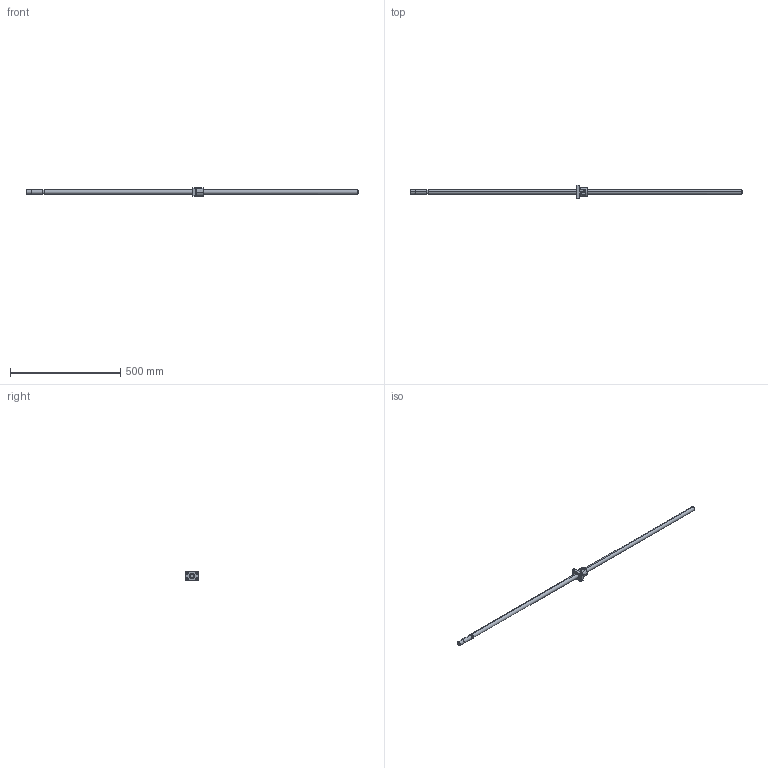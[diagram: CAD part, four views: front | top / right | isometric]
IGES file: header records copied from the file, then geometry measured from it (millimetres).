
Global section: file name: No Iges File Name specified; native system: AutoDesk Inventor R10; preprocessor: AutoDesk Inventor Iges Exporter R10; author: No Author specified; organization: No Organization specified; date: 20101224.141342; units: millimetre
Bounding box: 1505 x 60 x 40 mm (x, y, z)
Surface area: 110870.9 mm2 (no closed solid volume)
Topology: 0 solids, 0 shells, 133 faces, 972 edges, 972 vertices
Faces by surface type: bspline 133
